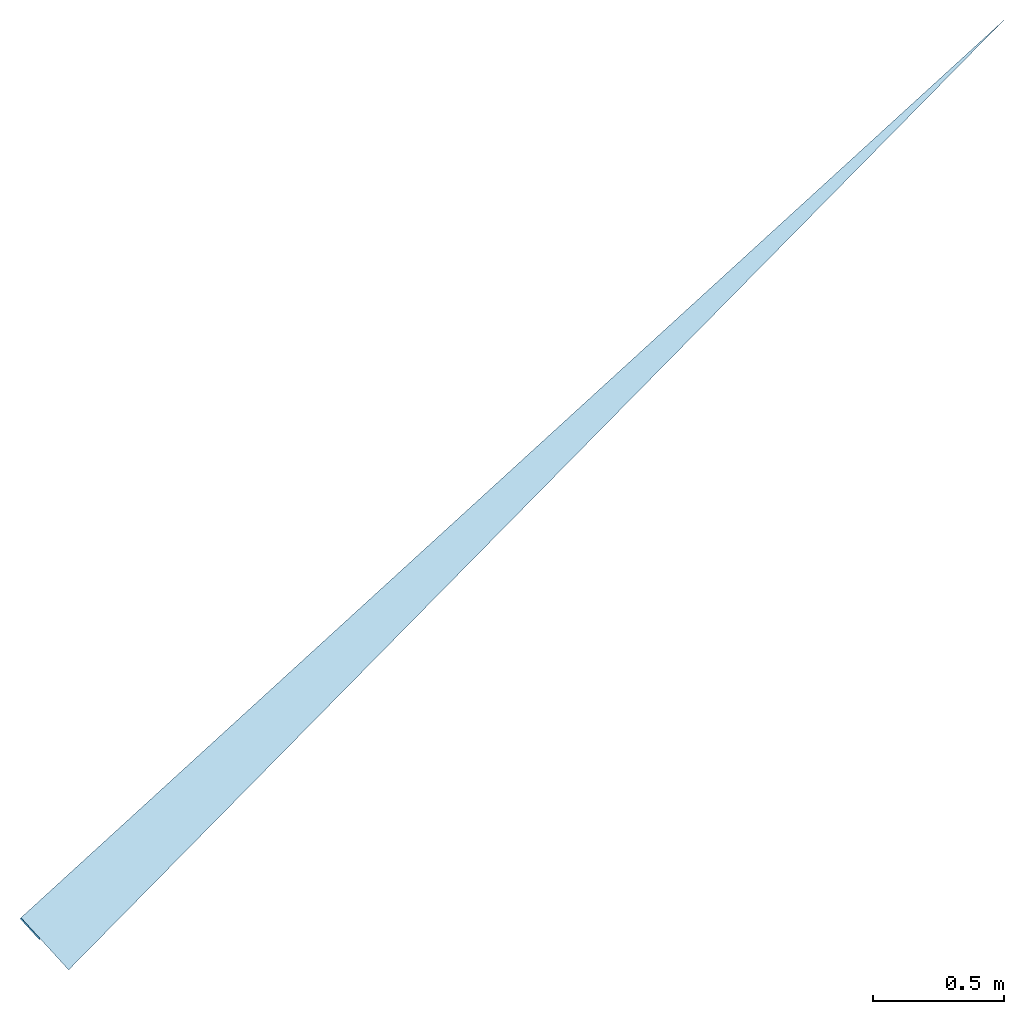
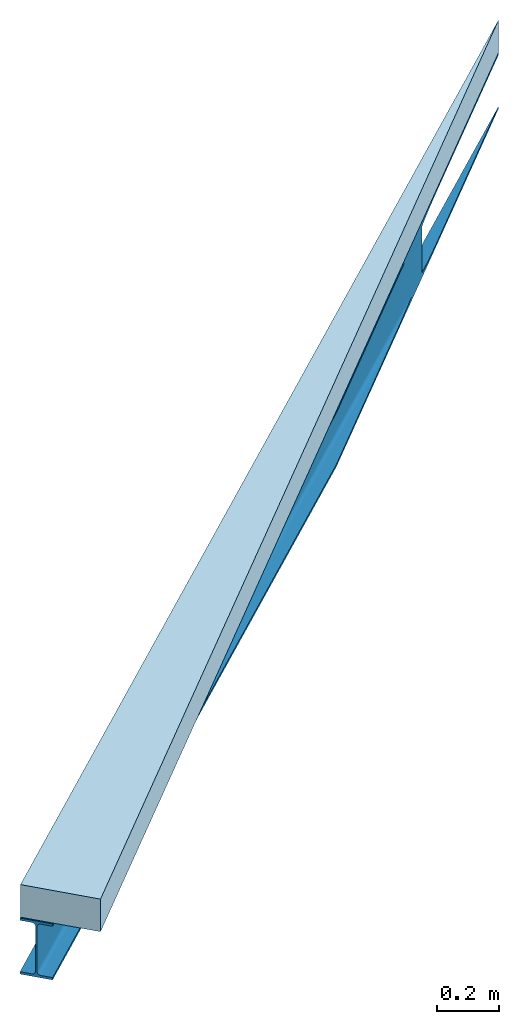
# One storey: 1 beam, 1 slab.
"""IFC2X3 building model written with IfcOpenShell, lengths in millimetres."""

from ifc_helpers import new_model, entity, si_unit, converted_unit, derived_unit, direction, frame, origin, origin_with_axes, place, context, subcontext, project, spatial, faceted_brep, material, layer, layer_set, type_object, element, save


model = new_model("IFC2X3")

# Units and contexts
model_context = context("Model", 3, precision=0.01, world=origin(), true_north=direction((6.12323399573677e-17, 1.0)))
plan_context = context("Plan", 3, precision=1e-05, world=origin_with_axes())
body_context = subcontext(model_context, "Body", "Model", "MODEL_VIEW")
ifc_project = project(units=[converted_unit("PLANEANGLEUNIT", "DEGREE", entity("IfcPositiveLengthMeasure", 0.0174532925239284), si_unit("PLANEANGLEUNIT", "RADIAN"), dimensions=[0, 0, 0, 0, 0, 0, 0]), si_unit("AREAUNIT", "SQUARE_METRE"), si_unit("LENGTHUNIT", "METRE", prefix="MILLI"), si_unit("MASSUNIT", "GRAM", prefix="KILO"), si_unit("POWERUNIT", "WATT"), si_unit("PRESSUREUNIT", "PASCAL", prefix="KILO"), si_unit("FORCEUNIT", "NEWTON", prefix="KILO"), si_unit("ELECTRICVOLTAGEUNIT", "VOLT"), si_unit("ELECTRICCURRENTUNIT", "AMPERE"), si_unit("THERMODYNAMICTEMPERATUREUNIT", "DEGREE_CELSIUS"), si_unit("TIMEUNIT", "SECOND"), si_unit("VOLUMEUNIT", "CUBIC_METRE"), derived_unit("LINEARVELOCITYUNIT", [(si_unit("LENGTHUNIT", "METRE"), 1), (si_unit("TIMEUNIT", "SECOND"), -1)]), derived_unit("VOLUMETRICFLOWRATEUNIT", [(si_unit("VOLUMEUNIT", "CUBIC_METRE"), 1), (si_unit("TIMEUNIT", "SECOND"), -1)]), derived_unit("THERMALTRANSMITTANCEUNIT", [(si_unit("POWERUNIT", "WATT"), 1), (si_unit("THERMODYNAMICTEMPERATUREUNIT", "KELVIN"), -1), (si_unit("AREAUNIT", "SQUARE_METRE"), -1)]), derived_unit("SOUNDPRESSUREUNIT", [(si_unit("PRESSUREUNIT", "PASCAL"), 1)])], contexts=[model_context, plan_context])

# Site, building, storey
site_placement = place(None, frame((0.0, 0.0, 0.0), z_axis=(0.0, 0.0, 1.0), x_axis=(0.214787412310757, -0.97666082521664, 0.0)))
site = spatial("IfcSite", under=ifc_project, at=site_placement, Name="Default", CompositionType="ELEMENT")
building_placement = place(site_placement, origin_with_axes())
building = spatial("IfcBuilding", under=site, at=building_placement, CompositionType="ELEMENT")
storey_placement = place(building_placement, frame((0.0, 0.0, 13200.0), z_axis=(0.0, 0.0, 1.0), x_axis=(1.0, 0.0, 0.0)))
storey = spatial("IfcBuildingStorey", under=building, at=storey_placement, Name="3. ETASJE", CompositionType="ELEMENT", Elevation=13199.9999999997)

# Beam
beam_type = type_object("IfcBeamType", Name="IPE-Beams:IPE220", PredefinedType="NOTDEFINED")
beam_placement = place(storey_placement, frame((-74427.8728271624, 311751.956241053, 72.0), z_axis=(0.0, 0.0, 1.0), x_axis=(0.50000000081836, -0.866025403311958, 0.0)))
element("IfcBeam", 1, at=beam_placement, inside=storey, type_object=beam_type, Name="IPE-Beams:IPE220", ObjectType="IPE-Beams:IPE220", context=body_context, shape_type="Brep", body=[
    faceted_brep([(22191.6919251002, 54.9999999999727, -220.0), (20120.1369830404, -54.9999999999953, -220.0), (25210.0000010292, -54.9999999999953, -220.0), (25210.0000010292, 54.9999999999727, -220.0), (22191.6919251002, 54.9999999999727, -210.8), (25210.0000010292, 54.9999999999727, -210.8), (21437.4576030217, 14.950000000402, -210.8), (25210.0000010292, 14.950000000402, -210.8), (21393.3695680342, 12.6089161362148, -210.569423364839), (25210.0000010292, 12.6089161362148, -210.569423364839), (21350.9758115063, 10.3577988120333, -209.886554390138), (25210.0000010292, 10.3577988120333, -209.886554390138), (21311.9055017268, 8.28315720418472, -208.777635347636), (25210.0000010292, 8.28315720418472, -208.777635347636), (21277.6600887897, 6.46471862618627, -207.285281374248), (25210.0000010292, 6.46471862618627, -207.285281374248), (21249.555604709, 4.97236465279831, -205.46684279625), (25210.0000010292, 4.97236465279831, -205.46684279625), (21228.6720890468, 3.8634456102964, -203.392201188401), (25210.0000010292, 3.8634456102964, -203.392201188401), (21215.8120835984, 3.18057663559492, -201.141083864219), (25210.0000010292, 3.18057663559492, -201.141083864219), (21211.4697911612, 2.9500000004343, -198.800000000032), (25210.0000010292, 2.9500000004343, -198.800000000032), (21211.4697911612, 2.9500000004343, -21.1999999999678), (25210.0000010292, 2.9500000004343, -21.1999999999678), (21215.8120835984, 3.18057663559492, -18.8589161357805), (25210.0000010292, 3.18057663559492, -18.8589161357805), (21228.6720890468, 3.8634456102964, -16.6077988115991), (25210.0000010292, 3.8634456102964, -16.6077988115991), (21249.555604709, 4.97236465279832, -14.5331572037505), (25210.0000010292, 4.97236465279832, -14.5331572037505), (21277.6600887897, 6.46471862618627, -12.714718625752), (25210.0000010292, 6.46471862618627, -12.714718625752), (21311.9055017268, 8.28315720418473, -11.2223646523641), (25210.0000010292, 8.28315720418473, -11.2223646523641), (21350.9758115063, 10.3577988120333, -10.1134456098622), (25210.0000010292, 10.3577988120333, -10.1134456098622), (21393.3695680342, 12.6089161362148, -9.43057663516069), (25210.0000010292, 12.6089161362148, -9.43057663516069), (21437.4576030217, 14.950000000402, -9.20000000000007), (25210.0000010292, 14.950000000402, -9.20000000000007), (22191.6919251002, 54.9999999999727, -9.20000000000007), (25210.0000010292, 54.9999999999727, -9.20000000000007), (22191.6919251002, 54.9999999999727, 0.0), (25210.0000010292, 54.9999999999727, 0.0), (20120.1369830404, -54.9999999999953, 0.0), (25210.0000010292, -54.9999999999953, 0.0), (20120.1369830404, -54.9999999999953, -9.20000000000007), (25210.0000010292, -54.9999999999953, -9.20000000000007), (20874.3713051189, -14.9500000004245, -9.20000000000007), (25210.0000010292, -14.9500000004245, -9.20000000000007), (20918.4593401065, -12.6089161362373, -9.43057663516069), (25210.0000010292, -12.6089161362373, -9.43057663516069), (20960.8530966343, -10.3577988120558, -10.1134456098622), (25210.0000010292, -10.3577988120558, -10.1134456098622), (20999.9234064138, -8.28315720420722, -11.2223646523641), (25210.0000010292, -8.28315720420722, -11.2223646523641), (21034.168819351, -6.46471862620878, -12.714718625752), (25210.0000010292, -6.46471862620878, -12.714718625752), (21062.2733034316, -4.97236465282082, -14.5331572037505), (25210.0000010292, -4.97236465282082, -14.5331572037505), (21083.1568190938, -3.86344561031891, -16.6077988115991), (25210.0000010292, -3.86344561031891, -16.6077988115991), (21096.0168245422, -3.18057663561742, -18.8589161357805), (25210.0000010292, -3.18057663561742, -18.8589161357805), (21100.3591169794, -2.9500000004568, -21.1999999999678), (25210.0000010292, -2.95000000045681, -21.1999999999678), (21100.3591169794, -2.95000000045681, -198.800000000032), (25210.0000010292, -2.95000000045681, -198.800000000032), (21096.0168245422, -3.18057663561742, -201.141083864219), (25210.0000010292, -3.18057663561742, -201.141083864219), (21083.1568190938, -3.86344561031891, -203.392201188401), (25210.0000010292, -3.86344561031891, -203.392201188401), (21062.2733034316, -4.97236465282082, -205.46684279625), (25210.0000010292, -4.97236465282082, -205.46684279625), (21034.168819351, -6.46471862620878, -207.285281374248), (25210.0000010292, -6.46471862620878, -207.285281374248), (20999.9234064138, -8.28315720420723, -208.777635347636), (25210.0000010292, -8.28315720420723, -208.777635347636), (20960.8530966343, -10.3577988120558, -209.886554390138), (25210.0000010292, -10.3577988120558, -209.886554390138), (20918.4593401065, -12.6089161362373, -210.569423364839), (25210.0000010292, -12.6089161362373, -210.569423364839), (20874.3713051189, -14.9500000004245, -210.8), (25210.0000010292, -14.9500000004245, -210.8), (20120.1369830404, -54.9999999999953, -210.8), (25210.0000010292, -54.9999999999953, -210.8)], [[[0, 1, 2, 3]], [[4, 0, 3, 5]], [[6, 4, 5, 7]], [[8, 6, 7, 9]], [[10, 8, 9, 11]], [[12, 10, 11, 13]], [[14, 12, 13, 15]], [[16, 14, 15, 17]], [[18, 16, 17, 19]], [[20, 18, 19, 21]], [[22, 20, 21, 23]], [[24, 22, 23, 25]], [[26, 24, 25, 27]], [[28, 26, 27, 29]], [[30, 28, 29, 31]], [[32, 30, 31, 33]], [[34, 32, 33, 35]], [[36, 34, 35, 37]], [[38, 36, 37, 39]], [[40, 38, 39, 41]], [[42, 40, 41, 43]], [[44, 42, 43, 45]], [[46, 44, 45, 47]], [[48, 46, 47, 49]], [[50, 48, 49, 51]], [[52, 50, 51, 53]], [[54, 52, 53, 55]], [[56, 54, 55, 57]], [[58, 56, 57, 59]], [[60, 58, 59, 61]], [[62, 60, 61, 63]], [[64, 62, 63, 65]], [[66, 64, 65, 67]], [[68, 66, 67, 69]], [[70, 68, 69, 71]], [[72, 70, 71, 73]], [[74, 72, 73, 75]], [[76, 74, 75, 77]], [[78, 76, 77, 79]], [[80, 78, 79, 81]], [[82, 80, 81, 83]], [[84, 82, 83, 85]], [[86, 84, 85, 87]], [[1, 86, 87, 2]], [[3, 2, 87, 85, 83, 81, 79, 77, 75, 73, 71, 69, 67, 65, 63, 61, 59, 57, 55, 53, 51, 49, 47, 45, 43, 41, 39, 37, 35, 33, 31, 29, 27, 25, 23, 21, 19, 17, 15, 13, 11, 9, 7, 5]], [[4, 6, 8, 10, 12, 14, 16, 18, 20, 22, 24, 26, 28, 30, 32, 34, 36, 38, 40, 42, 44, 46, 48, 50, 52, 54, 56, 58, 60, 62, 64, 66, 68, 70, 72, 74, 76, 78, 80, 82, 84, 86, 1, 0]]], orient=[[False], [False], [False], [False], [False], [False], [False], [False], [False], [False], [False], [False], [False], [False], [False], [False], [False], [False], [False], [False], [False], [False], [False], [False], [False], [False], [False], [False], [False], [False], [False], [False], [False], [False], [False], [False], [False], [False], [False], [False], [False], [False], [False], [False], [False], [False]]),
])

# Slab
ifc_material = material(Name="NO_Metall - Stål(2)")
ifc_layer = layer(ifc_material, 128.0)
ifc_layer_set = layer_set([ifc_layer], Name="Floor:Ståldekke 128")
slab_type = type_object("IfcSlabType", Name="Floor:Ståldekke 128", PredefinedType="FLOOR", material=ifc_layer_set)
slab_placement = place(storey_placement, frame((-74473.004224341, 289896.285948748, 72.0), z_axis=(0.0, 0.0, 1.0), x_axis=(1.0, 0.0, 0.0)))
element("IfcSlab", 2, at=slab_placement, inside=storey, type_object=slab_type, Name="Floor:Ståldekke 128", ObjectType="Floor:Ståldekke 128", PredefinedType="FLOOR", context=body_context, shape_type="Brep", body=[
    faceted_brep([(12833.8331922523, 135.003644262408, 128.0), (12833.8331922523, 135.003644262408, 9.9475983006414e-13), (12600.0000216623, -1.7811544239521e-08, 9.9475983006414e-13), (12600.0000216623, -1.7811544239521e-08, 128.0), (10057.5685079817, 4403.62054683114, 9.9475983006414e-13), (10057.5685079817, 4403.62054683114, 128.0)], [[[0, 1, 2, 3]], [[4, 5, 3, 2]], [[5, 0, 3]], [[1, 4, 2]], [[5, 4, 1, 0]]], orient=[[False], [False], [False], [False], [False]]),
])

save(model, "model.ifc")
